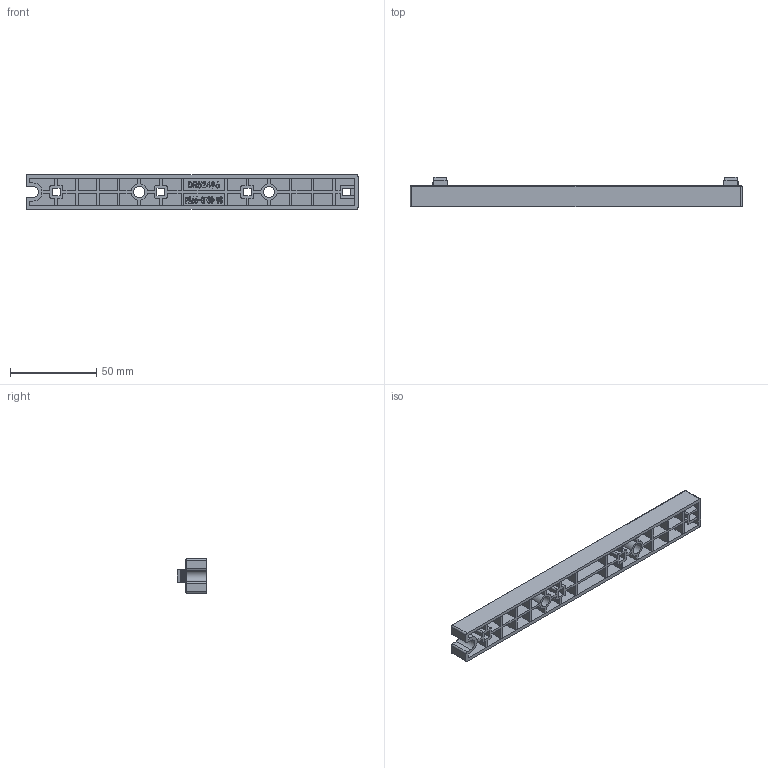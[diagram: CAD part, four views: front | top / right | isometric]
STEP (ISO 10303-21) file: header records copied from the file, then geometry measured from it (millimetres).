
FILE_DESCRIPTION (( 'STEP AP214' ), '1' );
FILE_NAME ('52496.STEP', '2021-08-11T05:39:49', ( '' ), ( '' ), 'SwSTEP 2.0', 'SolidWorks 2017', '' );
FILE_SCHEMA (( 'AUTOMOTIVE_DESIGN' ));
Length unit declared in the file: millimetre
Products named in the file (2): 52496
Bounding box: 192 x 17 x 20 mm (x, y, z)
Volume: 22358.5 mm3; surface area: 24768.7 mm2
Topology: 1 solids, 1 shells, 527 faces, 1441 edges, 952 vertices
Faces by surface type: plane 389, cylinder 69, bspline 67, cone 2
Full cylindrical faces by diameter (mm): 6.5 x2
Entity records: 25924 total; most frequent: CARTESIAN_POINT 9473, ORIENTED_EDGE 2860, DIRECTION 2311, EDGE_CURVE 1430, VECTOR 1163, LINE 1163, VERTEX_POINT 952, EDGE_LOOP 586
